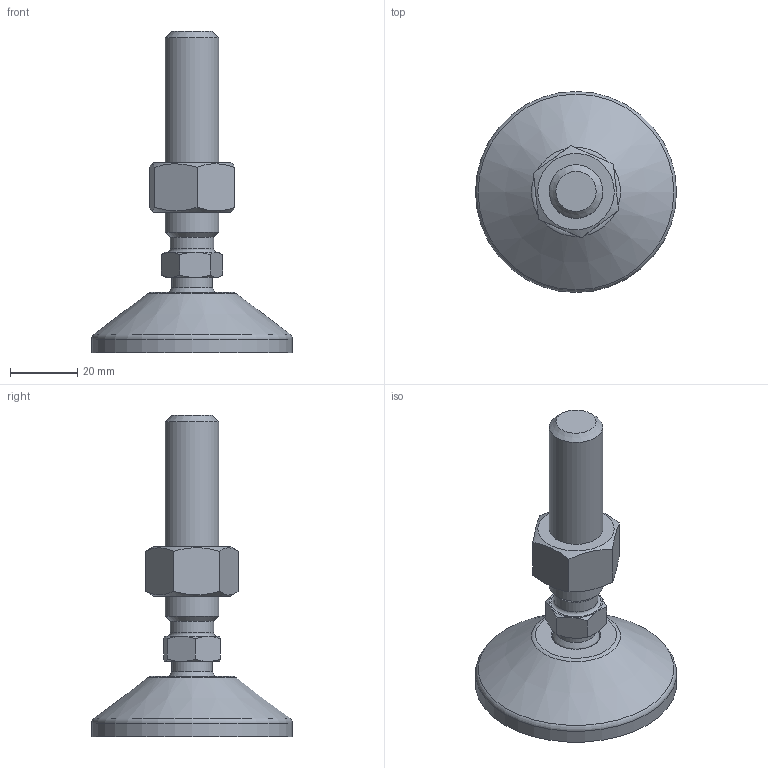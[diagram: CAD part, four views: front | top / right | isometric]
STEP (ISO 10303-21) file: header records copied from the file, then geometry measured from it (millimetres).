
FILE_DESCRIPTION(('STEP AP203'), '1');
FILE_NAME('栖闉罻', '', ('UNSPECIFIED'), ('UNSPECIFIED'), 'C3D Converter', 'C3D Toolkit', '');
FILE_SCHEMA(('CONFIG_CONTROL_DESIGN'));
Length unit declared in the file: millimetre
Products named in the file (4): A00020.116066; A00015.1060
Assembly tree (3 placements, depth 3):
  (unnamed)
    A00020.116066
      (unnamed)
    A00015.1060
Bounding box: 60 x 60 x 95.98 mm (x, y, z)
Volume: 41217.1 mm3; surface area: 16950.4 mm2
Topology: 3 solids, 3 shells, 163 faces, 430 edges, 285 vertices
Faces by surface type: plane 86, cylinder 34, torus 21, cone 20, sphere 2
Full cylindrical faces by diameter (mm): 4 x8, 12 x1, 13 x1, 13.835 x1, 14.3 x1, 15 x2, 15.5 x1, 16 x1, 50.5 x1, 60 x1
Entity records: 8670 total; most frequent: CARTESIAN_POINT 3262, DIRECTION 814, ORIENTED_EDGE 790, EDGE_CURVE 395, AXIS2_PLACEMENT_3D 337, VERTEX_POINT 284, EDGE_LOOP 211, FACE_BOUND 174
